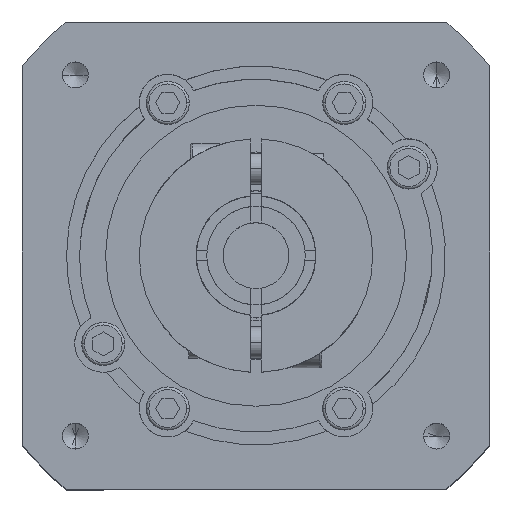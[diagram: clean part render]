
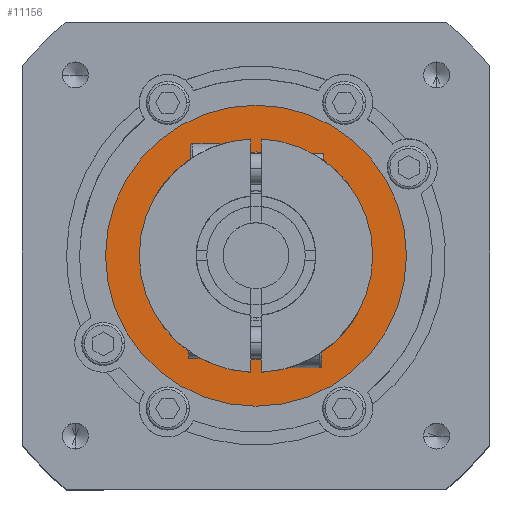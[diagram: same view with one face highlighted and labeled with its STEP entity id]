
A CAD part, top view. The second image highlights one B-rep face of the part: STEP entity #11156.
In plain terms, the highlighted planar face has unit normal (0, 0, 1).
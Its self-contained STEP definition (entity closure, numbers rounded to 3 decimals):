
#555 = EDGE_CURVE ( 'NONE', #608, #5185, #5987, .T. ) ;
#608 = VERTEX_POINT ( 'NONE', #8738 ) ;
#847 = EDGE_LOOP ( 'NONE', ( #10604, #6909 ) ) ;
#934 = DIRECTION ( 'NONE',  ( 0., 0., -1. ) ) ;
#985 = DIRECTION ( 'NONE',  ( -1., 0., 0. ) ) ;
#996 = EDGE_CURVE ( 'NONE', #9476, #5775, #5712, .T. ) ;
#1018 = CARTESIAN_POINT ( 'NONE',  ( 0., 0., 95. ) ) ;
#1939 = CARTESIAN_POINT ( 'NONE',  ( 0., 0., 95. ) ) ;
#2071 = DIRECTION ( 'NONE',  ( -1., 0., 0. ) ) ;
#2103 = ORIENTED_EDGE ( 'NONE', *, *, #5269, .F. ) ;
#2493 = CARTESIAN_POINT ( 'NONE',  ( -29., 0., 95. ) ) ;
#2668 = ORIENTED_EDGE ( 'NONE', *, *, #555, .F. ) ;
#2911 = CARTESIAN_POINT ( 'NONE',  ( -20., 0., 95. ) ) ;
#3531 = EDGE_CURVE ( 'NONE', #5775, #9476, #10876, .T. ) ;
#3811 = PLANE ( 'NONE',  #4238 ) ;
#3884 = AXIS2_PLACEMENT_3D ( 'NONE', #1939, #9115, #3935 ) ;
#3935 = DIRECTION ( 'NONE',  ( -1., 0., 0. ) ) ;
#4015 = AXIS2_PLACEMENT_3D ( 'NONE', #1018, #934, #985 ) ;
#4238 = AXIS2_PLACEMENT_3D ( 'NONE', #10588, #7269, #2071 ) ;
#4355 = CARTESIAN_POINT ( 'NONE',  ( 20., 0., 95. ) ) ;
#5185 = VERTEX_POINT ( 'NONE', #2493 ) ;
#5269 = EDGE_CURVE ( 'NONE', #5185, #608, #8934, .T. ) ;
#5712 = CIRCLE ( 'NONE', #4015, 20. ) ;
#5775 = VERTEX_POINT ( 'NONE', #2911 ) ;
#5987 = CIRCLE ( 'NONE', #9795, 29. ) ;
#6909 = ORIENTED_EDGE ( 'NONE', *, *, #996, .T. ) ;
#7005 = AXIS2_PLACEMENT_3D ( 'NONE', #7541, #7473, #7438 ) ;
#7209 = FACE_OUTER_BOUND ( 'NONE', #9088, .T. ) ;
#7269 = DIRECTION ( 'NONE',  ( 0., 0., -1. ) ) ;
#7438 = DIRECTION ( 'NONE',  ( -1., 0., 0. ) ) ;
#7464 = FACE_BOUND ( 'NONE', #847, .T. ) ;
#7473 = DIRECTION ( 'NONE',  ( 0., 0., -1. ) ) ;
#7541 = CARTESIAN_POINT ( 'NONE',  ( 0., 0., 95. ) ) ;
#8736 = CARTESIAN_POINT ( 'NONE',  ( 0., 0., 95. ) ) ;
#8738 = CARTESIAN_POINT ( 'NONE',  ( 29., 0., 95. ) ) ;
#8934 = CIRCLE ( 'NONE', #7005, 29. ) ;
#9088 = EDGE_LOOP ( 'NONE', ( #2103, #2668 ) ) ;
#9115 = DIRECTION ( 'NONE',  ( 0., 0., -1. ) ) ;
#9476 = VERTEX_POINT ( 'NONE', #4355 ) ;
#9562 = DIRECTION ( 'NONE',  ( -1., 0., 0. ) ) ;
#9602 = DIRECTION ( 'NONE',  ( 0., 0., -1. ) ) ;
#9795 = AXIS2_PLACEMENT_3D ( 'NONE', #8736, #9602, #9562 ) ;
#10588 = CARTESIAN_POINT ( 'NONE',  ( -29., 0., 95. ) ) ;
#10604 = ORIENTED_EDGE ( 'NONE', *, *, #3531, .T. ) ;
#10876 = CIRCLE ( 'NONE', #3884, 20. ) ;
#11156 = ADVANCED_FACE ( 'NONE', ( #7209, #7464 ), #3811, .F. ) ;
